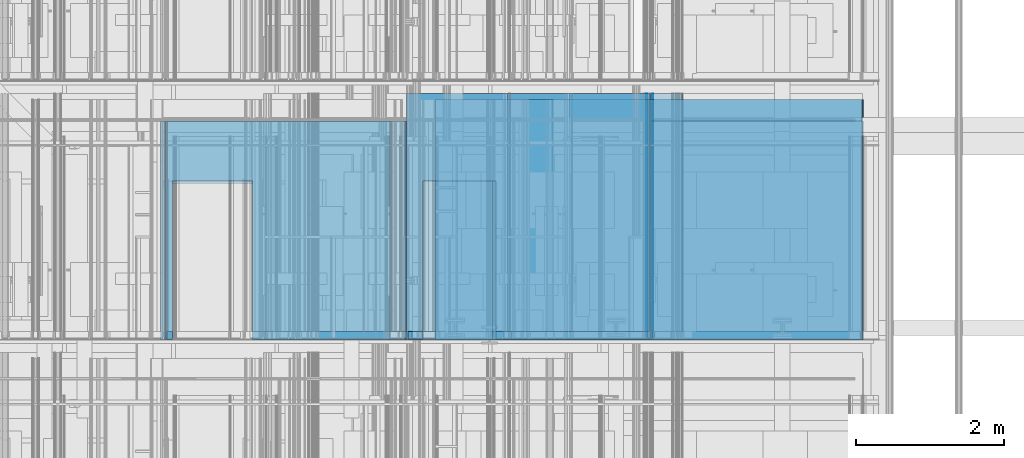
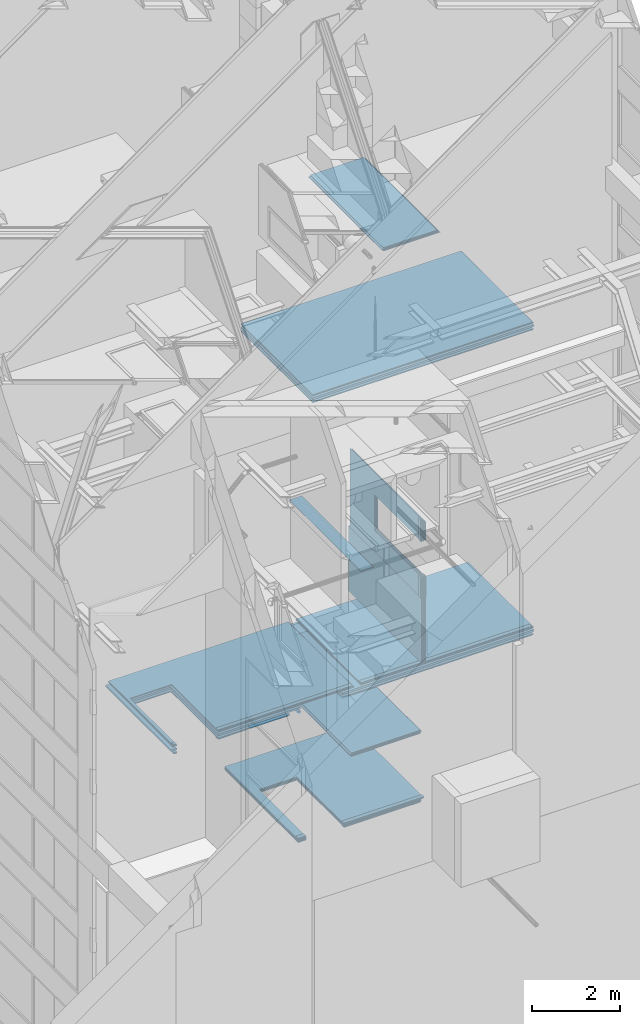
# One storey, part 111 of 583: 42 building element parts, 6 openings, 8 elements without a shape of their own.
"""IFC2X3 building model written with IfcOpenShell, lengths in metres."""

from ifc_helpers import new_model, entity, si_unit, converted_unit, derived_unit, money_unit, direction, frame, frame_2d, origin_with_axes, place, context, subcontext, project, spatial, polyline, rectangle, outline, extrude, material, type_object, element, aggregate, save


model = new_model("IFC2X3")

# Units and contexts
model_context = context("Model", 3, precision=1e-05, world=origin_with_axes(), true_north=direction((0.0, 1.0)))
body_context = subcontext(model_context, "Body", "Model", "MODEL_VIEW", scale=1.0)
ifc_project = project(units=[si_unit("LENGTHUNIT", "METRE"), si_unit("AREAUNIT", "SQUARE_METRE"), si_unit("VOLUMEUNIT", "CUBIC_METRE"), si_unit("ABSORBEDDOSEUNIT", "GRAY"), si_unit("AMOUNTOFSUBSTANCEUNIT", "MOLE"), si_unit("DOSEEQUIVALENTUNIT", "SIEVERT"), si_unit("ELECTRICCAPACITANCEUNIT", "FARAD"), si_unit("ELECTRICCHARGEUNIT", "COULOMB"), si_unit("ELECTRICCONDUCTANCEUNIT", "SIEMENS"), si_unit("ELECTRICCURRENTUNIT", "AMPERE"), si_unit("ELECTRICRESISTANCEUNIT", "OHM"), si_unit("ELECTRICVOLTAGEUNIT", "VOLT"), si_unit("ENERGYUNIT", "JOULE"), si_unit("FORCEUNIT", "NEWTON"), si_unit("FREQUENCYUNIT", "HERTZ"), si_unit("ILLUMINANCEUNIT", "LUX"), si_unit("INDUCTANCEUNIT", "HENRY"), si_unit("LUMINOUSFLUXUNIT", "LUMEN"), si_unit("LUMINOUSINTENSITYUNIT", "CANDELA"), si_unit("MAGNETICFLUXDENSITYUNIT", "TESLA"), si_unit("MAGNETICFLUXUNIT", "WEBER"), si_unit("MASSUNIT", "GRAM"), converted_unit("PLANEANGLEUNIT", "degree", entity("IfcReal", 0.0174532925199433), si_unit("PLANEANGLEUNIT", "RADIAN"), dimensions=[0, 0, 0, 0, 0, 0, 0]), si_unit("POWERUNIT", "WATT"), si_unit("PRESSUREUNIT", "PASCAL"), si_unit("RADIOACTIVITYUNIT", "BECQUEREL"), si_unit("SOLIDANGLEUNIT", "STERADIAN"), si_unit("THERMODYNAMICTEMPERATUREUNIT", "KELVIN"), si_unit("TIMEUNIT", "SECOND"), derived_unit("ACCELERATIONUNIT", [(si_unit("LENGTHUNIT", "METRE"), 1), (si_unit("TIMEUNIT", "SECOND"), -2)]), derived_unit("ANGULARVELOCITYUNIT", [(converted_unit("PLANEANGLEUNIT", "degree", entity("IfcReal", 0.0174532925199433), si_unit("PLANEANGLEUNIT", "RADIAN"), dimensions=[0, 0, 0, 0, 0, 0, 0]), 1), (si_unit("TIMEUNIT", "SECOND"), -1)]), derived_unit("CURVATUREUNIT", [(converted_unit("PLANEANGLEUNIT", "degree", entity("IfcReal", 0.0174532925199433), si_unit("PLANEANGLEUNIT", "RADIAN"), dimensions=[0, 0, 0, 0, 0, 0, 0]), 1), (si_unit("LENGTHUNIT", "METRE"), -1)]), derived_unit("DYNAMICVISCOSITYUNIT", [(si_unit("PRESSUREUNIT", "PASCAL"), 1), (si_unit("TIMEUNIT", "SECOND"), 1)]), derived_unit("HEATFLUXDENSITYUNIT", [(si_unit("POWERUNIT", "WATT"), 1), (si_unit("LENGTHUNIT", "METRE"), -2)]), derived_unit("HEATINGVALUEUNIT", [(si_unit("ENERGYUNIT", "JOULE"), 1), (si_unit("MASSUNIT", "GRAM"), -1)]), derived_unit("INTEGERCOUNTRATEUNIT", [(si_unit("TIMEUNIT", "SECOND"), -1)]), derived_unit("IONCONCENTRATIONUNIT", [(si_unit("MASSUNIT", "GRAM"), 1), (si_unit("VOLUMEUNIT", "CUBIC_METRE"), -1)]), derived_unit("ISOTHERMALMOISTURECAPACITYUNIT", [(si_unit("VOLUMEUNIT", "CUBIC_METRE"), 1), (si_unit("MASSUNIT", "GRAM"), -1)]), derived_unit("KINEMATICVISCOSITYUNIT", [(si_unit("AREAUNIT", "SQUARE_METRE"), 1), (si_unit("TIMEUNIT", "SECOND"), -1)]), derived_unit("LINEARFORCEUNIT", [(si_unit("FORCEUNIT", "NEWTON"), 1), (si_unit("LENGTHUNIT", "METRE"), -1)]), derived_unit("LINEARMOMENTUNIT", [(si_unit("FORCEUNIT", "NEWTON"), 1), (si_unit("LENGTHUNIT", "METRE"), -1)]), derived_unit("LINEARSTIFFNESSUNIT", [(si_unit("FORCEUNIT", "NEWTON"), 1), (si_unit("LENGTHUNIT", "METRE"), -1)]), derived_unit("LINEARVELOCITYUNIT", [(si_unit("LENGTHUNIT", "METRE"), 1), (si_unit("TIMEUNIT", "SECOND"), -1)]), derived_unit("LUMINOUSINTENSITYDISTRIBUTIONUNIT", [(si_unit("LUMINOUSINTENSITYUNIT", "CANDELA"), 1), (si_unit("LUMINOUSFLUXUNIT", "LUMEN"), -1)]), derived_unit("MASSDENSITYUNIT", [(si_unit("MASSUNIT", "GRAM"), 1), (si_unit("VOLUMEUNIT", "CUBIC_METRE"), -1)]), derived_unit("MASSFLOWRATEUNIT", [(si_unit("MASSUNIT", "GRAM"), 1), (si_unit("TIMEUNIT", "SECOND"), -1)]), derived_unit("MASSPERLENGTHUNIT", [(si_unit("MASSUNIT", "GRAM"), 1), (si_unit("LENGTHUNIT", "METRE"), -1)]), derived_unit("MODULUSOFELASTICITYUNIT", [(si_unit("FORCEUNIT", "NEWTON"), 1), (si_unit("AREAUNIT", "SQUARE_METRE"), -1)]), derived_unit("MODULUSOFLINEARSUBGRADEREACTIONUNIT", [(si_unit("FORCEUNIT", "NEWTON"), 1), (si_unit("LENGTHUNIT", "METRE"), -2)]), derived_unit("MODULUSOFROTATIONALSUBGRADEREACTIONUNIT", [(si_unit("FORCEUNIT", "NEWTON"), 1), (si_unit("LENGTHUNIT", "METRE"), 1)]), derived_unit("MODULUSOFSUBGRADEREACTIONUNIT", [(si_unit("FORCEUNIT", "NEWTON"), 1), (si_unit("VOLUMEUNIT", "CUBIC_METRE"), -1)]), derived_unit("MOISTUREDIFFUSIVITYUNIT", [(si_unit("VOLUMEUNIT", "CUBIC_METRE"), 1), (si_unit("TIMEUNIT", "SECOND"), -1)]), derived_unit("MOLECULARWEIGHTUNIT", [(si_unit("MASSUNIT", "GRAM"), 1), (si_unit("AMOUNTOFSUBSTANCEUNIT", "MOLE"), -1)]), derived_unit("PLANARFORCEUNIT", [(si_unit("FORCEUNIT", "NEWTON"), 1), (si_unit("LENGTHUNIT", "METRE"), -2)]), derived_unit("ROTATIONALFREQUENCYUNIT", [(si_unit("TIMEUNIT", "SECOND"), -1)]), derived_unit("ROTATIONALMASSUNIT", [(si_unit("MASSUNIT", "GRAM"), 1), (si_unit("LENGTHUNIT", "METRE"), 2)]), derived_unit("ROTATIONALSTIFFNESSUNIT", [(si_unit("FORCEUNIT", "NEWTON"), 1), (si_unit("LENGTHUNIT", "METRE"), 1), (converted_unit("PLANEANGLEUNIT", "degree", entity("IfcReal", 0.0174532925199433), si_unit("PLANEANGLEUNIT", "RADIAN"), dimensions=[0, 0, 0, 0, 0, 0, 0]), -1)]), derived_unit("SECTIONAREAINTEGRALUNIT", [(si_unit("LENGTHUNIT", "METRE"), 5)]), derived_unit("SECTIONMODULUSUNIT", [(si_unit("LENGTHUNIT", "METRE"), 3)]), derived_unit("SHEARMODULUSUNIT", [(si_unit("FORCEUNIT", "NEWTON"), 1), (si_unit("AREAUNIT", "SQUARE_METRE"), -1)]), derived_unit("SOUNDPOWERUNIT", [(si_unit("ENERGYUNIT", "JOULE"), 1), (si_unit("TIMEUNIT", "SECOND"), -1)]), derived_unit("SPECIFICHEATCAPACITYUNIT", [(si_unit("FORCEUNIT", "NEWTON"), 1), (si_unit("MASSUNIT", "GRAM"), -1), (si_unit("THERMODYNAMICTEMPERATUREUNIT", "KELVIN"), -1)]), derived_unit("TEMPERATUREGRADIENTUNIT", [(si_unit("THERMODYNAMICTEMPERATUREUNIT", "KELVIN"), 1), (si_unit("LENGTHUNIT", "METRE"), -1)]), derived_unit("THERMALADMITTANCEUNIT", [(si_unit("POWERUNIT", "WATT"), 1), (si_unit("AREAUNIT", "SQUARE_METRE"), -1), (si_unit("THERMODYNAMICTEMPERATUREUNIT", "KELVIN"), -1)]), derived_unit("THERMALCONDUCTANCEUNIT", [(si_unit("POWERUNIT", "WATT"), 1), (si_unit("LENGTHUNIT", "METRE"), -1), (si_unit("THERMODYNAMICTEMPERATUREUNIT", "KELVIN"), -1)]), derived_unit("THERMALEXPANSIONCOEFFICIENTUNIT", [(si_unit("THERMODYNAMICTEMPERATUREUNIT", "KELVIN"), -1)]), derived_unit("THERMALRESISTANCEUNIT", [(si_unit("AREAUNIT", "SQUARE_METRE"), 1), (si_unit("POWERUNIT", "WATT"), -1)]), derived_unit("THERMALTRANSMITTANCEUNIT", [(si_unit("POWERUNIT", "WATT"), 1), (si_unit("AREAUNIT", "SQUARE_METRE"), -1), (si_unit("THERMODYNAMICTEMPERATUREUNIT", "KELVIN"), -1)]), derived_unit("TORQUEUNIT", [(si_unit("FORCEUNIT", "NEWTON"), 1), (si_unit("LENGTHUNIT", "METRE"), 1)]), derived_unit("VAPORPERMEABILITYUNIT", [(si_unit("MASSUNIT", "GRAM"), 1), (si_unit("TIMEUNIT", "SECOND"), -1)]), derived_unit("VOLUMETRICFLOWRATEUNIT", [(si_unit("VOLUMEUNIT", "CUBIC_METRE"), 1), (si_unit("TIMEUNIT", "SECOND"), -1)]), derived_unit("WARPINGCONSTANTUNIT", [(si_unit("LENGTHUNIT", "METRE"), 6)]), derived_unit("WARPINGMOMENTUNIT", [(si_unit("FORCEUNIT", "NEWTON"), 1), (si_unit("LENGTHUNIT", "METRE"), 2)]), money_unit("GBP")], contexts=[model_context])

# Site, building, storey
site_placement = place(None, origin_with_axes())
site = spatial("IfcSite", under=ifc_project, at=site_placement, Name="Site", CompositionType="ELEMENT")
building_placement = place(site_placement, origin_with_axes())
building = spatial("IfcBuilding", under=site, at=building_placement, Name="Building01", CompositionType="ELEMENT")
storey_placement = place(building_placement, frame((0.0, 0.0, 20.78), z_axis=(0.0, 0.0, 1.0), x_axis=(1.0, 0.0, 0.0)))
storey = spatial("IfcBuildingStorey", under=building, at=storey_placement, Name="RL", CompositionType="ELEMENT", Elevation=20.78)

# Wall, building element parts
wall_type_1 = type_object("IfcWallType", Name="SHE_A-Walls_Type05a_Partition_95mm_tall", PredefinedType="NOTDEFINED")
wall_1_placement = place(storey_placement, frame((10.63, 8.64, -1.694716), z_axis=(0.0, 1.0, 0.0), x_axis=(1.0, 0.0, 0.0)))
wall_1 = element("IfcWall", 1, at=wall_1_placement, inside=storey, type_object=wall_type_1, Name="5A", ObjectType="SHE_A-Walls_Type05a_Partition_95mm_tall")
ifc_material_1 = material(Name="A_BSUK_Insulation")
placement_1 = place(wall_1_placement, origin_with_axes())
building_element_part_1 = element("IfcBuildingElementPart", 2, at=placement_1, material=ifc_material_1, Name="1", context=body_context, shape_type="SweptSolid", body=[
    extrude(outline(polyline([(1.494378, 0.025), (0.0, 0.025), (0.0, 0.0), (1.469378, 0.0), (1.494378, 0.025)])), origin_with_axes(), (0.0, 0.0, 1.0), 3.32),
])
ifc_material_2 = material(Name="A_BSUK_WallInternal_Finishes_Plasterboard")
building_element_part_2 = element("IfcBuildingElementPart", 3, at=placement_1, material=ifc_material_2, Name="4", context=body_context, shape_type="SweptSolid", body=[
    extrude(outline(polyline([(1.529378, 0.06), (0.035, 0.06), (0.035, 0.048), (1.517378, 0.048), (1.529378, 0.06)])), origin_with_axes(), (0.0, 0.0, 1.0), 3.32),
])
building_element_part_3 = element("IfcBuildingElementPart", 4, at=placement_1, material=ifc_material_2, Name="5", context=body_context, shape_type="SweptSolid", body=[
    extrude(outline(polyline([(1.446378, -0.023), (0.035, -0.023), (0.035, -0.035), (1.434378, -0.035), (1.446378, -0.023)])), origin_with_axes(), (0.0, 0.0, 1.0), 3.32),
])
aggregate(wall_1, [building_element_part_1, building_element_part_2, building_element_part_3])

wall_type_2 = type_object("IfcWallType", Name="SHE_A-Walls_Type01c_Partywall_225mm_twin_tall", PredefinedType="NOTDEFINED")
wall_2_placement = place(storey_placement, frame((8.82, 8.64, -5.159868), z_axis=(0.0, 1.0, 0.0), x_axis=(1.0, 0.0, 0.0)))
wall_2 = element("IfcWall", 5, at=wall_2_placement, inside=storey, type_object=wall_type_2, Name="1C", ObjectType="SHE_A-Walls_Type01c_Partywall_225mm_twin_tall")
placement_2 = place(wall_2_placement, origin_with_axes())
building_element_part_4 = element("IfcBuildingElementPart", 6, at=placement_2, material=ifc_material_1, Name="1", context=body_context, shape_type="SweptSolid", body=[
    extrude(rectangle(XDim=5.774, YDim=0.05, at=frame_2d((2.887, 0.025), x_axis=(-1.0, 0.0))), origin_with_axes(), (0.0, 0.0, 1.0), 3.24),
])
building_element_part_5 = element("IfcBuildingElementPart", 7, at=placement_2, material=ifc_material_2, Name="3", context=body_context, shape_type="SweptSolid", body=[
    extrude(rectangle(XDim=5.747, YDim=0.015, at=frame_2d((2.8735, 0.1295), x_axis=(-1.0, 0.0))), origin_with_axes(), (0.0, 0.0, 1.0), 3.24),
])
building_element_part_6 = element("IfcBuildingElementPart", 8, at=placement_2, material=ifc_material_2, Name="4", context=body_context, shape_type="SweptSolid", body=[
    extrude(rectangle(XDim=5.762, YDim=0.015, at=frame_2d((2.881, 0.1145), x_axis=(-1.0, 0.0))), origin_with_axes(), (0.0, 0.0, 1.0), 3.24),
])
building_element_part_7 = element("IfcBuildingElementPart", 9, at=placement_2, material=ifc_material_2, Name="5", context=body_context, shape_type="SweptSolid", body=[
    extrude(rectangle(XDim=5.762, YDim=0.015, at=frame_2d((2.881, -0.0655), x_axis=(-1.0, 0.0))), origin_with_axes(), (0.0, 0.0, 1.0), 3.24),
])
building_element_part_8 = element("IfcBuildingElementPart", 10, at=placement_2, material=ifc_material_2, Name="6", context=body_context, shape_type="SweptSolid", body=[
    extrude(rectangle(XDim=5.747, YDim=0.015, at=frame_2d((2.8735, -0.0805), x_axis=(-1.0, 0.0))), origin_with_axes(), (0.0, 0.0, 1.0), 3.24),
])
aggregate(wall_2, [building_element_part_4, building_element_part_5, building_element_part_6, building_element_part_7, building_element_part_8])

wall_3_placement = place(storey_placement, frame((11.703124, 8.64, -11.69), z_axis=(0.0, 1.0, 0.0), x_axis=(0.0, 0.0, -1.0)))
wall_3 = element("IfcWall", 11, at=wall_3_placement, inside=storey, type_object=wall_type_1, Name="5A", ObjectType="SHE_A-Walls_Type05a_Partition_95mm_tall")
placement_3 = place(wall_3_placement, origin_with_axes())
building_element_part_9 = element("IfcBuildingElementPart", 12, at=placement_3, material=ifc_material_1, Name="1", context=body_context, shape_type="SweptSolid", body=[
    extrude(rectangle(XDim=1.800331, YDim=0.025, at=frame_2d((0.900166, -0.0125), x_axis=(1.0, 0.0))), origin_with_axes(), (0.0, 0.0, 1.0), 3.32),
])
building_element_part_10 = element("IfcBuildingElementPart", 13, at=placement_3, material=ifc_material_2, Name="4", context=body_context, shape_type="SweptSolid", body=[
    extrude(rectangle(XDim=1.800331, YDim=0.012, at=frame_2d((0.900166, 0.029), x_axis=(1.0, 0.0))), origin_with_axes(), (0.0, 0.0, 1.0), 3.32),
])
building_element_part_11 = element("IfcBuildingElementPart", 14, at=placement_3, material=ifc_material_2, Name="5", context=body_context, shape_type="SweptSolid", body=[
    extrude(rectangle(XDim=1.800331, YDim=0.012, at=frame_2d((0.900166, -0.054), x_axis=(1.0, 0.0))), origin_with_axes(), (0.0, 0.0, 1.0), 3.32),
])
aggregate(wall_3, [building_element_part_9, building_element_part_10, building_element_part_11])

# Wall, openings, building element parts
wall_4_placement = place(storey_placement, frame((11.703124, 8.64, -11.69), z_axis=(0.0, 1.0, 0.0), x_axis=(0.0, 0.0, 1.0)))
wall_4 = element("IfcWall", 15, at=wall_4_placement, inside=storey, type_object=wall_type_1, Name="5A", ObjectType="SHE_A-Walls_Type05a_Partition_95mm_tall")
opening_1_placement = place(wall_4_placement, frame((0.621, 0.005, -0.015), z_axis=(0.0, 0.0, 1.0), x_axis=(1.0, 0.0, 0.0)))
element("IfcOpeningElement", 16, at=opening_1_placement, cuts=wall_4, Name="Opening", ObjectType="Opening", context=body_context, shape_type="SweptSolid", body=[
    extrude(rectangle(XDim=0.9, YDim=2.142, at=frame_2d((-0.45, 1.071), x_axis=(1.0, 0.0))), frame((0.0, -3.353722, 0.0), z_axis=(0.0, 1.0, 0.0), x_axis=(-1.0, 0.0, 0.0)), (0.0, 0.0, 1.0), 6.707444),
])
opening_2_placement = place(wall_4_placement, frame((0.579, 0.06, 0.0), z_axis=(0.0, 0.0, 1.0), x_axis=(1.0, 0.0, 0.0)))
element("IfcOpeningElement", 17, at=opening_2_placement, cuts=wall_4, Name="Opening", ObjectType="Opening", context=body_context, shape_type="SweptSolid", body=[
    extrude(rectangle(XDim=2.142, YDim=0.984, at=frame_2d((-0.492, 1.071), x_axis=(0.0, -1.0))), frame((0.0, -4.371196, 0.0), z_axis=(0.0, 1.0, 0.0), x_axis=(-1.0, 0.0, 0.0)), (0.0, 0.0, 1.0), 8.742391),
])
placement_4 = place(wall_4_placement, origin_with_axes())
building_element_part_12 = element("IfcBuildingElementPart", 18, at=placement_4, material=ifc_material_1, Name="1", context=body_context, shape_type="SweptSolid", body=[
    extrude(rectangle(XDim=2.15, YDim=0.025, at=frame_2d((1.075, 0.0125), x_axis=(-1.0, 0.0))), origin_with_axes(), (0.0, 0.0, 1.0), 3.24),
])
ifc_material_3 = material(Name="A_BSUK_Walls_Timber")
building_element_part_13 = element("IfcBuildingElementPart", 19, at=placement_4, material=ifc_material_3, Name="2", context=body_context, shape_type="SweptSolid", body=[
    extrude(outline(polyline([(2.075, 0.075), (0.0, 0.075), (0.0, 0.06), (2.09, 0.06), (2.075, 0.075)])), frame((0.0, 0.0, 0.015), z_axis=(0.0, 0.0, 1.0), x_axis=(1.0, 0.0, 0.0)), (0.0, 0.0, 1.0), 0.1),
])
building_element_part_14 = element("IfcBuildingElementPart", 20, at=placement_4, material=ifc_material_3, Name="3", context=body_context, shape_type="SweptSolid", body=[
    extrude(outline(polyline([(2.185, -0.035), (0.0, -0.035), (0.0, -0.05), (2.2, -0.05), (2.185, -0.035)])), frame((0.0, 0.0, 0.015), z_axis=(0.0, 0.0, 1.0), x_axis=(1.0, 0.0, 0.0)), (0.0, 0.0, 1.0), 0.1),
])
building_element_part_15 = element("IfcBuildingElementPart", 21, at=placement_4, material=ifc_material_2, Name="4", context=body_context, shape_type="SweptSolid", body=[
    extrude(outline(polyline([(2.09, 0.06), (0.0, 0.06), (0.0, 0.048), (2.102, 0.048), (2.09, 0.06)])), origin_with_axes(), (0.0, 0.0, 1.0), 3.24),
])
building_element_part_16 = element("IfcBuildingElementPart", 22, at=placement_4, material=ifc_material_2, Name="5", context=body_context, shape_type="SweptSolid", body=[
    extrude(outline(polyline([(2.173, -0.023), (0.0, -0.023), (0.0, -0.035), (2.185, -0.035), (2.173, -0.023)])), origin_with_axes(), (0.0, 0.0, 1.0), 3.24),
])
aggregate(wall_4, [building_element_part_12, building_element_part_13, building_element_part_14, building_element_part_15, building_element_part_16])

# Wall, opening, building element parts
wall_5_placement = place(storey_placement, frame((8.43567, 8.64, -17.245331), z_axis=(0.0, 1.0, 0.0), x_axis=(1.0, 0.0, 0.0)))
wall_5 = element("IfcWall", 23, at=wall_5_placement, inside=storey, type_object=wall_type_1, Name="5A", ObjectType="SHE_A-Walls_Type05a_Partition_95mm_tall")
opening_3_placement = place(wall_5_placement, frame((0.223034, 0.06, 0.0), z_axis=(0.0, 0.0, 1.0), x_axis=(1.0, 0.0, 0.0)))
element("IfcOpeningElement", 24, at=opening_3_placement, cuts=wall_5, Name="Opening", ObjectType="Opening", context=body_context, shape_type="SweptSolid", body=[
    extrude(rectangle(XDim=2.142, YDim=0.984, at=frame_2d((-0.492, 1.071), x_axis=(0.0, -1.0))), frame((0.0, -5.095613, 0.0), z_axis=(0.0, 1.0, 0.0), x_axis=(-1.0, 0.0, 0.0)), (0.0, 0.0, 1.0), 10.191225),
])
placement_5 = place(wall_5_placement, origin_with_axes())
building_element_part_17 = element("IfcBuildingElementPart", 25, at=placement_5, material=ifc_material_1, Name="1", context=body_context, shape_type="SweptSolid", body=[
    extrude(rectangle(XDim=3.23, YDim=0.025, at=frame_2d((1.615, 0.0125), x_axis=(-1.0, 0.0))), origin_with_axes(), (0.0, 0.0, 1.0), 3.32),
])
building_element_part_18 = element("IfcBuildingElementPart", 26, at=placement_5, material=ifc_material_3, Name="2", context=body_context, shape_type="SweptSolid", body=[
    extrude(outline(polyline([(3.18, 0.075), (0.015, 0.075), (0.015, 0.06), (3.195, 0.06), (3.18, 0.075)])), frame((0.0, 0.0, 0.015), z_axis=(0.0, 0.0, 1.0), x_axis=(1.0, 0.0, 0.0)), (0.0, 0.0, 1.0), 0.1),
])
building_element_part_19 = element("IfcBuildingElementPart", 27, at=placement_5, material=ifc_material_3, Name="3", context=body_context, shape_type="SweptSolid", body=[
    extrude(outline(polyline([(3.29, -0.035), (0.015, -0.035), (0.015, -0.05), (3.305, -0.05), (3.29, -0.035)])), frame((0.0, 0.0, 0.015), z_axis=(0.0, 0.0, 1.0), x_axis=(1.0, 0.0, 0.0)), (0.0, 0.0, 1.0), 0.1),
])
building_element_part_20 = element("IfcBuildingElementPart", 28, at=placement_5, material=ifc_material_2, Name="4", context=body_context, shape_type="SweptSolid", body=[
    extrude(outline(polyline([(3.195, 0.06), (0.0, 0.06), (0.0, 0.048), (3.207, 0.048), (3.195, 0.06)])), origin_with_axes(), (0.0, 0.0, 1.0), 3.32),
])
building_element_part_21 = element("IfcBuildingElementPart", 29, at=placement_5, material=ifc_material_2, Name="5", context=body_context, shape_type="SweptSolid", body=[
    extrude(outline(polyline([(3.278, -0.023), (0.0, -0.023), (0.0, -0.035), (3.29, -0.035), (3.278, -0.023)])), origin_with_axes(), (0.0, 0.0, 1.0), 3.32),
])
aggregate(wall_5, [building_element_part_17, building_element_part_18, building_element_part_19, building_element_part_20, building_element_part_21])

# Wall, building element parts
wall_6_placement = place(storey_placement, frame((9.79567, 8.64, -15.350331), z_axis=(0.0, 1.0, 0.0), x_axis=(1.0, 0.0, 0.0)))
wall_6 = element("IfcWall", 30, at=wall_6_placement, inside=storey, type_object=wall_type_1, Name="5A", ObjectType="SHE_A-Walls_Type05a_Partition_95mm_tall")
placement_6 = place(wall_6_placement, origin_with_axes())
building_element_part_22 = element("IfcBuildingElementPart", 31, at=placement_6, material=ifc_material_1, Name="1", context=body_context, shape_type="SweptSolid", body=[
    extrude(rectangle(XDim=1.87, YDim=0.025, at=frame_2d((0.935, 0.0125), x_axis=(-1.0, 0.0))), origin_with_axes(), (0.0, 0.0, 1.0), 3.32),
])
building_element_part_23 = element("IfcBuildingElementPart", 32, at=placement_6, material=ifc_material_2, Name="4", context=body_context, shape_type="SweptSolid", body=[
    extrude(rectangle(XDim=1.8, YDim=0.012, at=frame_2d((0.935, 0.054), x_axis=(-1.0, 0.0))), origin_with_axes(), (0.0, 0.0, 1.0), 3.32),
])
building_element_part_24 = element("IfcBuildingElementPart", 33, at=placement_6, material=ifc_material_2, Name="5", context=body_context, shape_type="SweptSolid", body=[
    extrude(rectangle(XDim=1.8, YDim=0.012, at=frame_2d((0.935, -0.029), x_axis=(-1.0, 0.0))), origin_with_axes(), (0.0, 0.0, 1.0), 3.32),
])
aggregate(wall_6, [building_element_part_22, building_element_part_23, building_element_part_24])

# Wall, building element part
wall_7_placement = place(storey_placement, frame((8.82, 8.64, -10.326129), z_axis=(0.0, 1.0, 0.0), x_axis=(1.0, 0.0, 0.0)))
wall_7 = element("IfcWall", 34, at=wall_7_placement, inside=storey, type_object=wall_type_1, Name="5A", ObjectType="SHE_A-Walls_Type05a_Partition_95mm_tall")
building_element_part_25_placement = place(wall_7_placement, origin_with_axes())
building_element_part_25 = element("IfcBuildingElementPart", 35, at=building_element_part_25_placement, material=ifc_material_2, Name="7", context=body_context, shape_type="SweptSolid", body=[
    extrude(outline(polyline([(1.595, 0.06), (1.255704, 0.06), (1.255704, 0.048), (1.583, 0.048), (1.595, 0.06)])), origin_with_axes(), (0.0, 0.0, 1.0), 3.24),
])
aggregate(wall_7, [building_element_part_25])

# Wall, openings, building element parts
wall_8_placement = place(storey_placement, frame((5.117, 8.64, -13.578331), z_axis=(0.0, 1.0, 0.0), x_axis=(1.0, 0.0, 0.0)))
wall_8 = element("IfcWall", 36, at=wall_8_placement, inside=storey, type_object=wall_type_2, Name="1C", ObjectType="SHE_A-Walls_Type01c_Partywall_225mm_twin_tall")
opening_4_placement = place(wall_8_placement, frame((0.157475, -0.225, -0.03), z_axis=(0.0, 0.0, 1.0), x_axis=(1.0, 0.0, 0.0)))
element("IfcOpeningElement", 37, at=opening_4_placement, cuts=wall_8, Name="Opening", ObjectType="Opening", context=body_context, shape_type="SweptSolid", body=[
    extrude(rectangle(XDim=1.084, YDim=2.142, at=frame_2d((-0.542, 1.071), x_axis=(-1.0, 0.0))), frame((0.0, -0.4125, 0.0), z_axis=(0.0, 1.0, 0.0), x_axis=(-1.0, 0.0, 0.0)), (0.0, 0.0, 1.0), 0.825),
])
opening_5_placement = place(wall_8_placement, frame((3.391704, 0.137, 0.0), z_axis=(0.0, 0.0, 1.0), x_axis=(1.0, 0.0, 0.0)))
element("IfcOpeningElement", 38, at=opening_5_placement, cuts=wall_8, Name="Opening", ObjectType="Opening", context=body_context, shape_type="SweptSolid", body=[
    extrude(rectangle(XDim=2.142, YDim=1.084, at=frame_2d((-0.542, 1.071), x_axis=(0.0, -1.0))), frame((0.0, -0.2055, 0.0), z_axis=(0.0, 1.0, 0.0), x_axis=(-1.0, 0.0, 0.0)), (0.0, 0.0, 1.0), 0.411),
])
opening_6_placement = place(wall_8_placement, frame((0.157475, 0.137, 0.0), z_axis=(0.0, 0.0, 1.0), x_axis=(1.0, 0.0, 0.0)))
element("IfcOpeningElement", 39, at=opening_6_placement, cuts=wall_8, Name="Opening", ObjectType="Opening", context=body_context, shape_type="SweptSolid", body=[
    extrude(rectangle(XDim=2.142, YDim=1.084, at=frame_2d((-0.542, 1.071), x_axis=(0.0, -1.0))), frame((0.0, -0.2055, 0.0), z_axis=(0.0, 1.0, 0.0), x_axis=(-1.0, 0.0, 0.0)), (0.0, 0.0, 1.0), 0.411),
])
placement_7 = place(wall_8_placement, origin_with_axes())
building_element_part_26 = element("IfcBuildingElementPart", 40, at=placement_7, material=ifc_material_1, Name="1", context=body_context, shape_type="SweptSolid", body=[
    extrude(rectangle(XDim=9.477, YDim=0.05, at=frame_2d((4.7385, 0.025), x_axis=(-1.0, 0.0))), origin_with_axes(), (0.0, 0.0, 1.0), 2.95),
])
building_element_part_27 = element("IfcBuildingElementPart", 41, at=placement_7, material=ifc_material_3, Name="2", context=body_context, shape_type="SweptSolid", body=[
    extrude(rectangle(XDim=1.906475, YDim=0.015, at=frame_2d((1.041238, 0.1445), x_axis=(-1.0, 0.0))), frame((0.0, 0.0, 0.015), z_axis=(0.0, 0.0, 1.0), x_axis=(1.0, 0.0, 0.0)), (0.0, 0.0, 1.0), 0.1),
])
building_element_part_28 = element("IfcBuildingElementPart", 42, at=placement_7, material=ifc_material_2, Name="3", context=body_context, shape_type="SweptSolid", body=[
    extrude(rectangle(XDim=3.00567, YDim=0.015, at=frame_2d((1.590835, 0.1295), x_axis=(-1.0, 0.0))), origin_with_axes(), (0.0, 0.0, 1.0), 2.95),
])
building_element_part_29 = element("IfcBuildingElementPart", 43, at=placement_7, material=ifc_material_2, Name="4", context=body_context, shape_type="SweptSolid", body=[
    extrude(rectangle(XDim=3.03567, YDim=0.015, at=frame_2d((1.590835, 0.1145), x_axis=(-1.0, 0.0))), origin_with_axes(), (0.0, 0.0, 1.0), 2.95),
])
building_element_part_30 = element("IfcBuildingElementPart", 44, at=placement_7, material=ifc_material_2, Name="5", context=body_context, shape_type="SweptSolid", body=[
    extrude(rectangle(XDim=4.717704, YDim=0.015, at=frame_2d((2.416852, -0.0655), x_axis=(-1.0, 0.0))), origin_with_axes(), (0.0, 0.0, 1.0), 2.95),
])
building_element_part_31 = element("IfcBuildingElementPart", 45, at=placement_7, material=ifc_material_2, Name="6", context=body_context, shape_type="SweptSolid", body=[
    extrude(rectangle(XDim=4.687704, YDim=0.015, at=frame_2d((2.416852, -0.0805), x_axis=(-1.0, 0.0))), origin_with_axes(), (0.0, 0.0, 1.0), 2.95),
])
building_element_part_32 = element("IfcBuildingElementPart", 46, at=placement_7, material=ifc_material_3, Name="7", context=body_context, shape_type="SweptSolid", body=[
    extrude(rectangle(XDim=4.657704, YDim=0.015, at=frame_2d((2.416852, -0.0955), x_axis=(-1.0, 0.0))), frame((0.0, 0.0, 0.015), z_axis=(0.0, 0.0, 1.0), x_axis=(1.0, 0.0, 0.0)), (0.0, 0.0, 1.0), 0.1),
])
building_element_part_33 = element("IfcBuildingElementPart", 47, at=placement_7, material=ifc_material_2, Name="8", context=body_context, shape_type="SweptSolid", body=[
    extrude(outline(polyline([(9.45, 0.137), (3.31867, 0.137), (3.30367, 0.122), (9.45, 0.122), (9.45, 0.137)])), origin_with_axes(), (0.0, 0.0, 1.0), 2.95),
])
building_element_part_34 = element("IfcBuildingElementPart", 48, at=placement_7, material=ifc_material_3, Name="9", context=body_context, shape_type="SweptSolid", body=[
    extrude(rectangle(XDim=1.285, YDim=0.015, at=frame_2d((3.97617, 0.1445), x_axis=(-1.0, 0.0))), frame((0.0, 0.0, 0.015), z_axis=(0.0, 0.0, 1.0), x_axis=(1.0, 0.0, 0.0)), (0.0, 0.0, 1.0), 0.1),
])
building_element_part_35 = element("IfcBuildingElementPart", 49, at=placement_7, material=ifc_material_2, Name="10", context=body_context, shape_type="SweptSolid", body=[
    extrude(outline(polyline([(9.465, 0.122), (3.30367, 0.122), (3.28867, 0.107), (9.465, 0.107), (9.465, 0.122)])), origin_with_axes(), (0.0, 0.0, 1.0), 2.95),
])
building_element_part_36 = element("IfcBuildingElementPart", 50, at=placement_7, material=ifc_material_3, Name="11", context=body_context, shape_type="SweptSolid", body=[
    extrude(rectangle(XDim=1.56542, YDim=0.015, at=frame_2d((5.768414, -0.0955), x_axis=(-1.0, 0.0))), frame((0.0, 0.0, 0.015), z_axis=(0.0, 0.0, 1.0), x_axis=(1.0, 0.0, 0.0)), (0.0, 0.0, 1.0), 0.1),
])
building_element_part_37 = element("IfcBuildingElementPart", 51, at=placement_7, material=ifc_material_2, Name="12", context=body_context, shape_type="SweptSolid", body=[
    extrude(rectangle(XDim=4.494296, YDim=0.015, at=frame_2d((7.217852, -0.0805), x_axis=(-1.0, 0.0))), origin_with_axes(), (0.0, 0.0, 1.0), 2.95),
])
building_element_part_38 = element("IfcBuildingElementPart", 52, at=placement_7, material=ifc_material_2, Name="13", context=body_context, shape_type="SweptSolid", body=[
    extrude(rectangle(XDim=4.509296, YDim=0.015, at=frame_2d((7.210352, -0.0655), x_axis=(-1.0, 0.0))), origin_with_axes(), (0.0, 0.0, 1.0), 2.95),
])
building_element_part_39 = element("IfcBuildingElementPart", 53, at=placement_7, material=ifc_material_3, Name="14", context=body_context, shape_type="SweptSolid", body=[
    extrude(rectangle(XDim=2.44133, YDim=0.015, at=frame_2d((8.214335, 0.1445), x_axis=(-1.0, 0.0))), frame((0.0, 0.0, 0.015), z_axis=(0.0, 0.0, 1.0), x_axis=(1.0, 0.0, 0.0)), (0.0, 0.0, 1.0), 0.1),
])
building_element_part_40 = element("IfcBuildingElementPart", 54, at=placement_7, material=ifc_material_3, Name="15", context=body_context, shape_type="SweptSolid", body=[
    extrude(rectangle(XDim=2.155, YDim=0.015, at=frame_2d((5.80617, 0.1445), x_axis=(-1.0, 0.0))), frame((0.0, 0.0, 0.015), z_axis=(0.0, 0.0, 1.0), x_axis=(1.0, 0.0, 0.0)), (0.0, 0.0, 1.0), 0.1),
])
building_element_part_41 = element("IfcBuildingElementPart", 55, at=placement_7, material=ifc_material_3, Name="16", context=body_context, shape_type="SweptSolid", body=[
    extrude(rectangle(XDim=0.989195, YDim=0.015, at=frame_2d((2.584072, 0.1445), x_axis=(-1.0, 0.0))), frame((0.0, 0.0, 0.015), z_axis=(0.0, 0.0, 1.0), x_axis=(1.0, 0.0, 0.0)), (0.0, 0.0, 1.0), 0.1),
])
building_element_part_42 = element("IfcBuildingElementPart", 56, at=placement_7, material=ifc_material_3, Name="17", context=body_context, shape_type="SweptSolid", body=[
    extrude(rectangle(XDim=2.788876, YDim=0.015, at=frame_2d((8.040562, -0.0955), x_axis=(-1.0, 0.0))), frame((0.0, 0.0, 0.015), z_axis=(0.0, 0.0, 1.0), x_axis=(1.0, 0.0, 0.0)), (0.0, 0.0, 1.0), 0.1),
])
aggregate(wall_8, [building_element_part_26, building_element_part_27, building_element_part_28, building_element_part_29, building_element_part_30, building_element_part_31, building_element_part_32, building_element_part_33, building_element_part_34, building_element_part_35, building_element_part_36, building_element_part_37, building_element_part_38, building_element_part_39, building_element_part_40, building_element_part_41, building_element_part_42])

save(model, "model.ifc")
